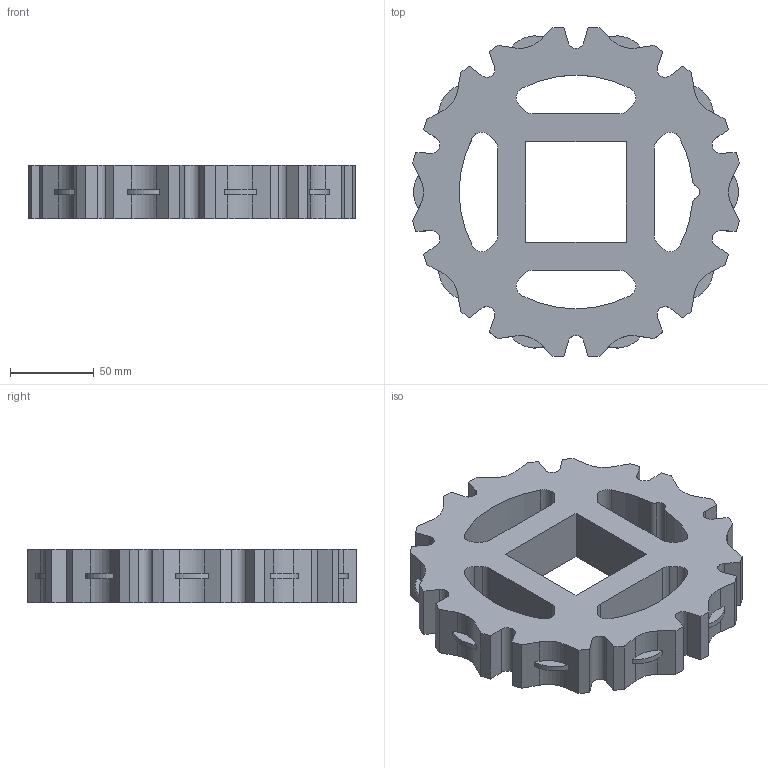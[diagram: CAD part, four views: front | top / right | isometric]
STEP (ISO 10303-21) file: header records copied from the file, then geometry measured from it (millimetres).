
FILE_DESCRIPTION((''),'2;1');
FILE_NAME('S1800_EZCLEAN_81X25_60_SQ','2008-12-12T',('jmumphre'),(''),'PRO/ENGINEER BY PARAMETRIC TECHNOLOGY CORPORATION, 2008150','PRO/ENGINEER BY PARAMETRIC TECHNOLOGY CORPORATION, 2008150','');
FILE_SCHEMA(('CONFIG_CONTROL_DESIGN'));
Length unit declared in the file: inch
Products named in the file (1): S1800_EZCLEAN_81X25_60_SQ
Bounding box: 195.38 x 196.49 x 31.75 mm (x, y, z)
Volume: 593595.2 mm3; surface area: 93035.9 mm2
Topology: 1 solids, 1 shells, 162 faces, 480 edges, 320 vertices
Faces by surface type: plane 98, cylinder 64
Entity records: 5492 total; most frequent: CARTESIAN_POINT 962, ORIENTED_EDGE 960, DIRECTION 932, EDGE_CURVE 480, VECTOR 352, LINE 352, VERTEX_POINT 320, AXIS2_PLACEMENT_3D 290
